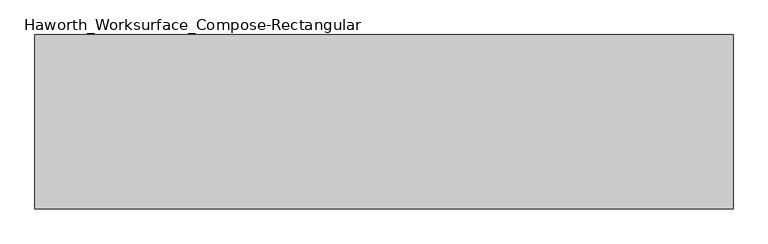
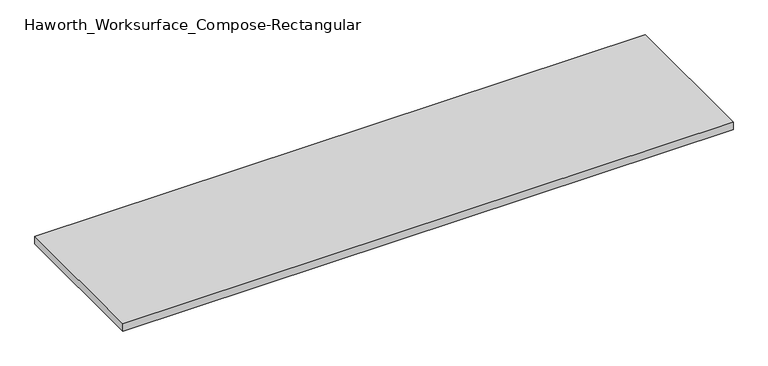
"""IFC4 building model written with IfcOpenShell, lengths in millimetres: furniture geometry, Haworth_Worksurface_Compose-Rectangular : 24'' x 96''."""

import ifcopenshell
import ifcopenshell.guid

model = None  # the IFC model being written
_history = None  # IfcOwnerHistory: only IFC2X3 demands one
_inside = {}  # id of a spatial element -> (the spatial element, [elements in it])
_under = {}  # id of a project, library or spatial element -> (it, [spatial elements below it])
_declared = {}  # id of a project -> (the project, [libraries it declares])
_typed = {}  # id of a type object -> (the type object, [elements of that type])
_made_of = {}  # id of a material, layer set ... -> (it, [elements and type objects made of it])


def new_model(schema):
    """Start an empty IFC model of exactly this schema.

    Asked for "IFC4X3", IfcOpenShell would pick the latest addendum, in which some entities
    have other attributes; the version numbers below select the first issue.
    IFC2X3 requires an IfcOwnerHistory on every rooted entity: one is made here for all.
    """
    global model, _history
    if schema == "IFC4X3":
        model = ifcopenshell.file(schema_version=(4, 3, 0, 0))
    else:
        model = ifcopenshell.file(schema=schema)
    _inside.clear()
    _under.clear()
    _declared.clear()
    _typed.clear()
    _made_of.clear()
    _history = None
    if model.schema == "IFC2X3":
        org = make("IfcOrganization", Name="unknown")
        user = make(
            "IfcPersonAndOrganization",
            ThePerson=make("IfcPerson", FamilyName="unknown"),
            TheOrganization=org,
        )
        app = make(
            "IfcApplication",
            ApplicationDeveloper=org,
            Version="unknown",
            ApplicationFullName="unknown",
            ApplicationIdentifier="unknown",
        )
        _history = make(
            "IfcOwnerHistory",
            OwningUser=user,
            OwningApplication=app,
            ChangeAction="ADDED",
            CreationDate=0,
        )
    return model


def make(cls, **values):
    """One entity of the class cls with the attributes given. An attribute that is None is left unset."""
    return model.create_entity(
        cls, **{name: value for name, value in values.items() if value is not None}
    )


def rooted(cls, **values):
    """An entity with a GlobalId (a new one), such as an element, a storey or a relation."""
    return make(cls, GlobalId=ifcopenshell.guid.new(), OwnerHistory=_history, **values)


def si_unit(unit_type, name, prefix=None):
    """IfcSIUnit, for example si_unit("LENGTHUNIT", "METRE", prefix="MILLI")."""
    return make("IfcSIUnit", UnitType=unit_type, Prefix=prefix, Name=name)


def assignment(units):
    """IfcUnitAssignment: the units of a project."""
    return None if units is None else make("IfcUnitAssignment", Units=units)


def point(xyz):
    """IfcCartesianPoint."""
    return None if xyz is None else make("IfcCartesianPoint", Coordinates=xyz)


def direction(xyz):
    """IfcDirection."""
    return None if xyz is None else make("IfcDirection", DirectionRatios=xyz)


def frame(location, z_axis=None, x_axis=None):
    """IfcAxis2Placement3D, a coordinate frame: its origin and axes. An axis left out is left unset."""
    return make(
        "IfcAxis2Placement3D",
        Location=point(location),
        Axis=direction(z_axis),
        RefDirection=direction(x_axis),
    )


def origin():
    """The frame at (0, 0, 0) with its axes left unset."""
    return frame((0.0, 0.0, 0.0))


def place(relative_to, where):
    """IfcLocalPlacement: puts the frame where relative to a parent placement (None: the world)."""
    return make(
        "IfcLocalPlacement", PlacementRelTo=relative_to, RelativePlacement=where
    )


def context(
    kind, dimensions, precision=None, world=None, true_north=None, identifier=None
):
    """IfcGeometricRepresentationContext, for example the 3D "Model" context."""
    return make(
        "IfcGeometricRepresentationContext",
        ContextIdentifier=identifier,
        ContextType=kind,
        CoordinateSpaceDimension=dimensions,
        Precision=precision,
        WorldCoordinateSystem=world,
        TrueNorth=true_north,
    )


def project(units=None, contexts=None):
    """IfcProject with its units and contexts."""
    return rooted(
        "IfcProject",
        Name="project",
        RepresentationContexts=contexts,
        UnitsInContext=assignment(units),
    )


def spatial(cls, under=None, at=None, **own):
    """A site, building, storey or space (cls), placed at a placement, below another one or the project."""
    s = rooted(cls, ObjectPlacement=at, **own)
    if under is not None:
        _under.setdefault(under.id(), (under, []))[1].append(s)
    return s


def polyline(points):
    """IfcPolyline through the points."""
    return make("IfcPolyline", Points=[point(p) for p in points])


def outline(outer, holes=None, kind="AREA"):
    """IfcArbitraryClosedProfileDef: a profile drawn as a closed curve; with holes, ...WithVoids."""
    if holes is None:
        return make("IfcArbitraryClosedProfileDef", ProfileType=kind, OuterCurve=outer)
    return make(
        "IfcArbitraryProfileDefWithVoids",
        ProfileType=kind,
        OuterCurve=outer,
        InnerCurves=holes,
    )


def extrude(swept, where, along, depth):
    """IfcExtrudedAreaSolid: the profile swept, set in the frame where, extruded along a direction by depth."""
    return make(
        "IfcExtrudedAreaSolid",
        SweptArea=swept,
        Position=where,
        ExtrudedDirection=direction(along),
        Depth=depth,
    )


def shape(context_of_items, identifier, shape_type, items):
    """IfcShapeRepresentation: the items that make up one representation, for example the "Body"."""
    return make(
        "IfcShapeRepresentation",
        ContextOfItems=context_of_items,
        RepresentationIdentifier=identifier,
        RepresentationType=shape_type,
        Items=items,
    )


def source(mapping_origin, context_of_items, identifier, shape_type, items):
    """IfcRepresentationMap: a shape defined once, which mapped items show again and again."""
    return make(
        "IfcRepresentationMap",
        MappingOrigin=mapping_origin,
        MappedRepresentation=shape(context_of_items, identifier, shape_type, items),
    )


def transform(
    local_origin,
    x_axis=None,
    y_axis=None,
    z_axis=None,
    scale=None,
    scale2=None,
    scale3=None,
    uniform=True,
):
    """IfcCartesianTransformationOperator3D, or its non-uniform kind. x_axis, y_axis, z_axis: its Axis1, 2, 3."""
    if uniform:
        return make(
            "IfcCartesianTransformationOperator3D",
            Axis1=direction(x_axis),
            Axis2=direction(y_axis),
            LocalOrigin=point(local_origin),
            Scale=scale,
            Axis3=direction(z_axis),
        )
    return make(
        "IfcCartesianTransformationOperator3DnonUniform",
        Axis1=direction(x_axis),
        Axis2=direction(y_axis),
        LocalOrigin=point(local_origin),
        Scale=scale,
        Axis3=direction(z_axis),
        Scale2=scale2,
        Scale3=scale3,
    )


def mapped(mapping_source, mapping_target):
    """IfcMappedItem: shows the shape of a source again, moved by a transform."""
    return make(
        "IfcMappedItem", MappingSource=mapping_source, MappingTarget=mapping_target
    )


def made_of(thing, what):
    """Note that an element or type object is made of a material, layer set ...; save() writes the relation."""
    if what is not None:
        _made_of.setdefault(what.id(), (what, []))[1].append(thing)
    return thing


def element(
    cls,
    number,
    at=None,
    inside=None,
    cuts=None,
    type_object=None,
    material=None,
    context=None,
    identifier="Body",
    shape_type=None,
    held_by="IfcProductDefinitionShape",
    body=None,
    shapes=None,
    **own,
):
    """One element of the class cls, such as IfcWall. Its Tag is "e" and its number.

    at: its placement. inside: the storey or other place that contains it. cuts: it is an
    opening in that element (IfcRelVoidsElement). A single representation is given by context,
    identifier, shape_type and body (its items); several are given by shapes. held_by: the class
    of the entity that holds the representations. save() writes the other relations.
    """
    e = rooted(cls, Tag="e%d" % number, ObjectPlacement=at, **own)
    if body is not None:
        shapes = [shape(context, identifier, shape_type, body)]
    if shapes is not None:
        e.Representation = make(held_by, Representations=shapes)
    if inside is not None:
        _inside.setdefault(inside.id(), (inside, []))[1].append(e)
    if cuts is not None:
        rooted(
            "IfcRelVoidsElement", RelatingBuildingElement=cuts, RelatedOpeningElement=e
        )
    if type_object is not None:
        _typed.setdefault(type_object.id(), (type_object, []))[1].append(e)
    return made_of(e, material)


def aggregate(whole, parts):
    """IfcRelAggregates: a whole, such as a stair, and the parts it consists of."""
    return rooted("IfcRelAggregates", RelatingObject=whole, RelatedObjects=parts)


def save(model, path):
    """Write the relations noted so far, then the file.

    IfcRelAggregates (storeys below a building ...), IfcRelContainedInSpatialStructure (elements
    in a storey), IfcRelDefinesByType, IfcRelAssociatesMaterial and IfcRelDeclares: one each for
    every whole, place, type object, material and project.
    """
    for whole, parts in _under.values():
        aggregate(whole, parts)
    for where, things in _inside.values():
        rooted(
            "IfcRelContainedInSpatialStructure",
            RelatedElements=things,
            RelatingStructure=where,
        )
    for kind, things in _typed.values():
        rooted("IfcRelDefinesByType", RelatedObjects=things, RelatingType=kind)
    for what, things in _made_of.values():
        rooted("IfcRelAssociatesMaterial", RelatedObjects=things, RelatingMaterial=what)
    for by, libraries in _declared.values():
        rooted("IfcRelDeclares", RelatingContext=by, RelatedDefinitions=libraries)
    model.write(path)


def haworth_worksurface_compose_rectangular_85a0d244(model_context):
    return source(origin(), model_context, "Body", "SweptSolid", [
        extrude(outline(polyline([(1219.2, 304.8), (1219.2, -304.8), (-1219.2, -304.8), (-1219.2, 304.8), (1219.2, 304.8)])), frame((0.0, 0.0, 706.4375), z_axis=(0.0, 0.0, 1.0), x_axis=(1.0, 0.0, 0.0)), (0.0, 0.0, 1.0), 30.1625),
    ])


if __name__ == "__main__":
    model = new_model("IFC4")
    model_context = context("Model", 3, world=origin())
    ifc_project = project(units=[si_unit("LENGTHUNIT", "METRE", prefix="MILLI")], contexts=[model_context])
    site = spatial("IfcSite", under=ifc_project)
    building = spatial("IfcBuilding", under=site)
    placement = place(None, origin())
    haworth_worksurface_compose_rectangular_shape = haworth_worksurface_compose_rectangular_85a0d244(model_context)
    element("IfcFurniture", 1, ObjectType="Haworth_Worksurface_Compose-Rectangular : 24'' x 96''", at=placement, inside=building, context=model_context, shape_type="MappedRepresentation", body=[
        mapped(haworth_worksurface_compose_rectangular_shape, transform((0.0, 0.0, 0.0), x_axis=(1.0, 0.0, 0.0), y_axis=(0.0, 1.0, 0.0), z_axis=(0.0, 0.0, 1.0))),
    ])
    save(model, "model.ifc")
